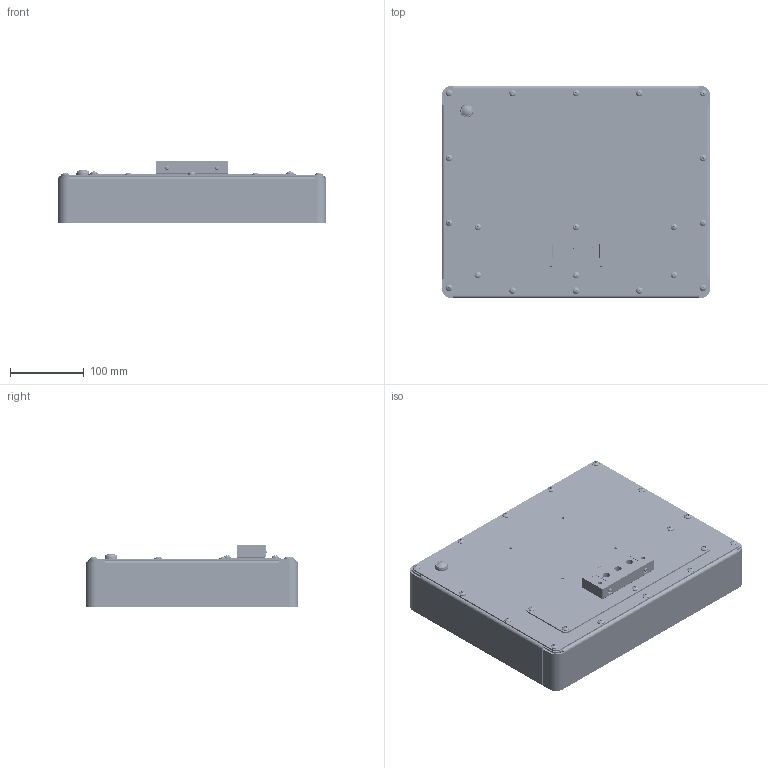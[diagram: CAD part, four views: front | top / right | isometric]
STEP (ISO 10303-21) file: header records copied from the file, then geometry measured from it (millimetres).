
FILE_DESCRIPTION (( 'STEP AP203' ), '1' );
FILE_NAME ('K150S-MON.STEP', '2026-07-16T10:08:16', ( '' ), ( '' ), 'SwSTEP 2.0', 'SolidWorks 2025', '' );
FILE_SCHEMA (( 'CONFIG_CONTROL_DESIGN' ));
Length unit declared in the file: millimetre
Products named in the file (48): ITW 59111; IPTFT00-10 Connector cover; ITW 59111_locknut; IPPC00-26 Backpanel C08-1525NPH; K150S-13 backcover; C08-1525NPH; K150S-MON; DC002; IPPC00-13 Montageplaat klein; K150S-12 Panelframe; K150S-10 Front; K-UNI-01 Componenten assembly_Monitor 15''''; 2.5'''' HDD; 48258_200; ITW 59111_button; S-M5-2-ZI Inpersmoer; 48258_200_01; S-M3-1-ZI Inpersmoer; Tubtara M4 HUKX20; 48258_200_04; 48258_200_08; V-UNI-12 Bevestigingsplaat; Meanwell IRM-60-12ST; Sealing^K150S-00 Assembly; 48258_200_06; K150S-15 Displaystrip; 48258_200_05; Tubtara M4 HUKX30; 48258_200_09; EG-15-319-0403V1; 48258_200_07; CPCB membrame key pad; ITW 59111_ring; SO-3,5M3-10-ZI Inpersafstandsteun; K150S-11 Glassmount; CMI G150XNE-L03; DIN 967 - M4 x 12 - Z --- 10.6N_DIN 967 - M4 x 12 - Z --- 10.6N; 220V IEC snap-in input socket 539-2017; 48258_200_02; RS232_panelmount_RS 446-462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
Assembly tree (97 placements, depth 4):
  K150S-MON
    K150S-10 Front
      K150S-10 Front
      Tubtara M4 HUKX30  x14
    K150S-11 Glassmount
    K150S-12 Panelframe
    K150S-13 backcover
      K150S-13 backcover
      Tubtara M4 HUKX20  x6
      TEST BS-M4-8 RVS blinde inpersafstandsteun  x4
    K-UNI-01 Componenten assembly_Monitor 15''''
      220V IEC snap-in input socket 539-2017
      IPPC00-26 Backpanel C08-1525NPH
      V-UNI-12 Bevestigingsplaat
        V-UNI-12 Bevestigingsplaat
        SO-3,5M3-10-ZI Inpersafstandsteun  x6
      C08-1525NPH
      CPCB membrame key pad
      IPTFT00-10 Connector cover
        IPTFT00-10 Connector cover
        S-M5-2-ZI Inpersmoer  x2
      48258_200
        48258_200_01
        48258_200_02
        48258_200_03
        48258_200_04
        48258_200_05
        48258_200_06
        48258_200_07
        48258_200_08
        48258_200_09
      RS232_panelmount_RS 446-462
      DC002
      2.5'''' HDD
      SSD2.5-10 bracket
      Meanwell IRM-60-12ST
      IPPC00-13 Montageplaat klein
        IPPC00-13 Montageplaat klein
        S-M3-1-ZI Inpersmoer  x4
    K150S-15 Displaystrip  x2
    CMI G150XNE-L03
    EG-15-319-0403V1
    Sealing^K150S-00 Assembly
    ITW 59111
      ITW 59111_button
      ITW 59111_ring
      ITW 59111_locknut
    DIN 967 - M4 x 12 - Z --- 10.6N_DIN 967 - M4 x 12 - Z --- 10.6N  x20
Bounding box: 363 x 287 x 84 mm (x, y, z)
Volume: 1982060.5 mm3; surface area: 1248790.1 mm2
Topology: 91 solids, 649 shells, 6937 faces, 20824 edges, 14570 vertices
Faces by surface type: plane 4810, cylinder 1279, bspline 438, cone 310, torus 64, sphere 36
Full cylindrical faces by diameter (mm): 0.1 x1, 0.2 x1, 0.8 x16, 0.92 x9, 1 x3, 1.2 x1, 1.27 x15, 1.397 x2, 1.8 x3, 2 x1, 2.5 x14, 3 x4, 3.2 x2, 3.4 x48, 3.5 x22, 4 x34, 4.008 x12, 4.04 x16, 4.2 x8, 4.3 x4, 4.41 x2, 4.5 x6, 5 x22, 5.4 x6, 5.49 x6, 5.5 x18, 5.8 x2, 6 x22, 6.2 x8, 6.3 x5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
Entity records: 235336 total; most frequent: CARTESIAN_POINT 79429, ORIENTED_EDGE 29189, DIRECTION 27470, EDGE_CURVE 17568, VERTEX_POINT 12703, VECTOR 12340, LINE 12340, AXIS2_PLACEMENT_3D 7565
